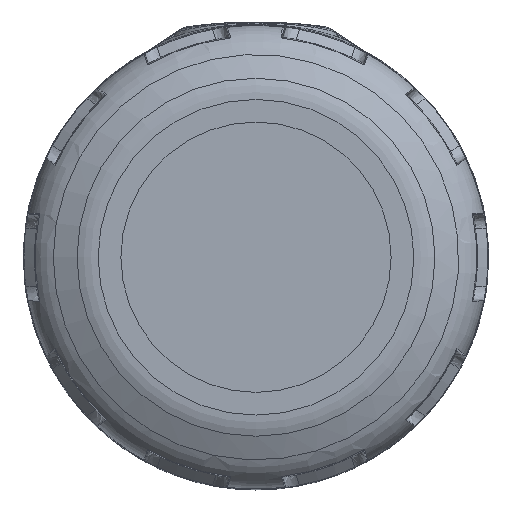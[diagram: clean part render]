
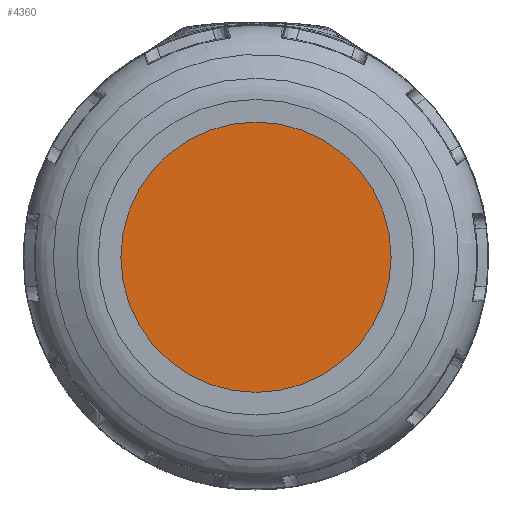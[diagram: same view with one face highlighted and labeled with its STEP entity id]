
A CAD part, front view. The second image highlights one B-rep face of the part: STEP entity #4360.
In plain terms, the highlighted planar face has unit normal (0, -1, 0).
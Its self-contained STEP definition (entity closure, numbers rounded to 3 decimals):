
#868=FACE_OUTER_BOUND($,#1118,.T.);
#1118=EDGE_LOOP($,(#3029));
#1401=CIRCLE($,#4645,5.4);
#1690=VERTEX_POINT($,#7424);
#2198=EDGE_CURVE($,#1690,#1690,#1401,.T.);
#3029=ORIENTED_EDGE($,*,*,#2198,.T.);
#3965=PLANE($,#4646);
#4360=ADVANCED_FACE($,(#868),#3965,.T.);
#4645=AXIS2_PLACEMENT_3D($,#7425,#5158,#5159);
#4646=AXIS2_PLACEMENT_3D($,#7426,#5160,#5161);
#5158=DIRECTION('center_axis',(0.,-1.,0.));
#5159=DIRECTION('ref_axis',(-1.,0.,0.));
#5160=DIRECTION('center_axis',(0.,-1.,0.));
#5161=DIRECTION('ref_axis',(0.,0.,1.));
#7424=CARTESIAN_POINT('',(-5.4,-32.45,0.));
#7425=CARTESIAN_POINT('Origin',(0.,-32.45,
0.));
#7426=CARTESIAN_POINT('Origin',(-2.7,-32.45,0.));
